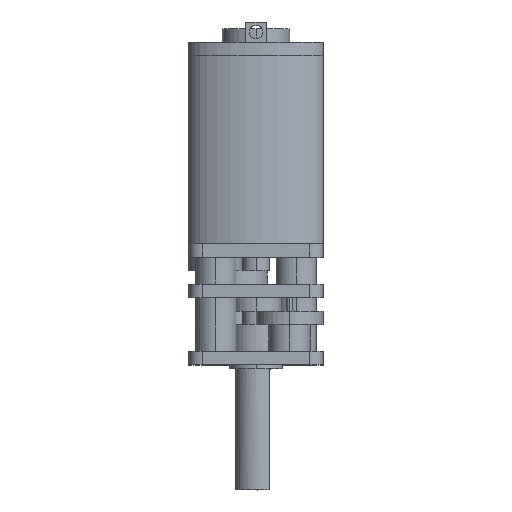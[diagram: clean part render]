
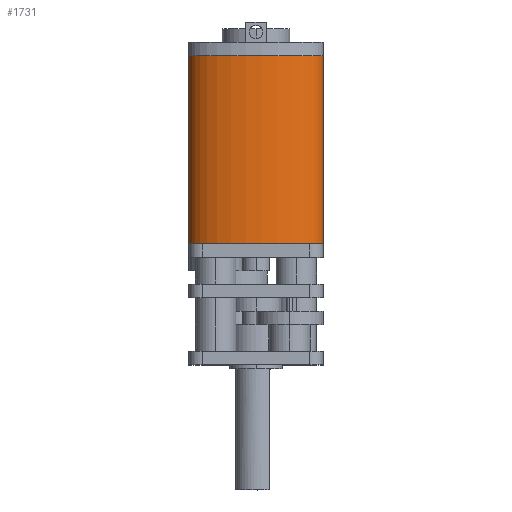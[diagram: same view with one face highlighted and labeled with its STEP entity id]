
A CAD part, top view. The second image highlights one B-rep face of the part: STEP entity #1731.
In plain terms, the highlighted free-form (B-spline) face has degree [3, 1] with [4, 2] control points.
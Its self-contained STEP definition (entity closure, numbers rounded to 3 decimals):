
#11 =( BOUNDED_SURFACE ( )  B_SPLINE_SURFACE ( 3, 1, ( 
 ( #390, #4788 ),
 ( #5086, #1599 ),
 ( #3533, #2807 ),
 ( #24, #862 ) ),
 .UNSPECIFIED., .F., .F., .F. ) 
 B_SPLINE_SURFACE_WITH_KNOTS ( ( 4, 4 ),
 ( 2, 2 ),
 ( 0., 1. ),
 ( 0., 1. ),
 .UNSPECIFIED. ) 
 GEOMETRIC_REPRESENTATION_ITEM ( )  RATIONAL_B_SPLINE_SURFACE ( (
 ( 1., 1.),
 ( 0.333, 0.333),
 ( 0.333, 0.333),
 ( 1., 1.) ) ) 
 REPRESENTATION_ITEM ( '' )  SURFACE ( )  );
#24 = CARTESIAN_POINT ( 'NONE',  ( -5., 9., 3.5 ) ) ;
#191 = ORIENTED_EDGE ( 'NONE', *, *, #4361, .T. ) ;
#323 = CARTESIAN_POINT ( 'NONE',  ( -5., 23., 3.5 ) ) ;
#390 = CARTESIAN_POINT ( 'NONE',  ( 5., 9., 3.5 ) ) ;
#629 = ORIENTED_EDGE ( 'NONE', *, *, #2189, .F. ) ;
#782 = FACE_OUTER_BOUND ( 'NONE', #3936, .T. ) ;
#803 = CARTESIAN_POINT ( 'NONE',  ( -5., 23., 8.5 ) ) ;
#862 = CARTESIAN_POINT ( 'NONE',  ( -5., 23., 3.5 ) ) ;
#1158 = EDGE_CURVE ( 'NONE', #1900, #3101, #3039, .T. ) ;
#1159 = CARTESIAN_POINT ( 'NONE',  ( 5., 9., 3.5 ) ) ;
#1198 = CARTESIAN_POINT ( 'NONE',  ( 5., 23., 3.5 ) ) ;
#1556 = VERTEX_POINT ( 'NONE', #323 ) ;
#1597 = CARTESIAN_POINT ( 'NONE',  ( -5., 9., 3.5 ) ) ;
#1599 = CARTESIAN_POINT ( 'NONE',  ( 5., 23., 8.5 ) ) ;
#1711 = ORIENTED_EDGE ( 'NONE', *, *, #3454, .T. ) ;
#1731 = ADVANCED_FACE ( 'NONE', ( #782 ), #11, .F. ) ;
#1736 = LINE ( 'NONE', #2120, #2224 ) ;
#1900 = VERTEX_POINT ( 'NONE', #4962 ) ;
#1983 = LINE ( 'NONE', #1597, #4863 ) ;
#2063 = DIRECTION ( 'NONE',  ( 0., 1., 0. ) ) ;
#2120 = CARTESIAN_POINT ( 'NONE',  ( 5., 9., 3.5 ) ) ;
#2184 =( BOUNDED_CURVE ( )  B_SPLINE_CURVE ( 3, ( #1198, #4323, #803, #3442 ),
 .UNSPECIFIED., .F., .F. ) 
 B_SPLINE_CURVE_WITH_KNOTS ( ( 4, 4 ),
 ( 0., 3.142 ),
 .UNSPECIFIED. ) 
 CURVE ( )  GEOMETRIC_REPRESENTATION_ITEM ( )  RATIONAL_B_SPLINE_CURVE ( ( 1., 0.333, 0.333, 1. ) ) 
 REPRESENTATION_ITEM ( '' )  );
#2189 = EDGE_CURVE ( 'NONE', #3101, #1556, #1983, .T. ) ;
#2224 = VECTOR ( 'NONE', #4880, 1000. ) ;
#2560 = VERTEX_POINT ( 'NONE', #2748 ) ;
#2748 = CARTESIAN_POINT ( 'NONE',  ( 5., 23., 3.5 ) ) ;
#2807 = CARTESIAN_POINT ( 'NONE',  ( -5., 23., 8.5 ) ) ;
#3039 =( BOUNDED_CURVE ( )  B_SPLINE_CURVE ( 3, ( #1159, #4233, #4999, #3518 ),
 .UNSPECIFIED., .F., .F. ) 
 B_SPLINE_CURVE_WITH_KNOTS ( ( 4, 4 ),
 ( 0., 3.142 ),
 .UNSPECIFIED. ) 
 CURVE ( )  GEOMETRIC_REPRESENTATION_ITEM ( )  RATIONAL_B_SPLINE_CURVE ( ( 1., 0.333, 0.333, 1. ) ) 
 REPRESENTATION_ITEM ( '' )  );
#3101 = VERTEX_POINT ( 'NONE', #4100 ) ;
#3442 = CARTESIAN_POINT ( 'NONE',  ( -5., 23., 3.5 ) ) ;
#3454 = EDGE_CURVE ( 'NONE', #1900, #2560, #1736, .T. ) ;
#3518 = CARTESIAN_POINT ( 'NONE',  ( -5., 9., 3.5 ) ) ;
#3533 = CARTESIAN_POINT ( 'NONE',  ( -5., 9., 8.5 ) ) ;
#3936 = EDGE_LOOP ( 'NONE', ( #191, #629, #4372, #1711 ) ) ;
#4100 = CARTESIAN_POINT ( 'NONE',  ( -5., 9., 3.5 ) ) ;
#4233 = CARTESIAN_POINT ( 'NONE',  ( 5., 9., 8.5 ) ) ;
#4323 = CARTESIAN_POINT ( 'NONE',  ( 5., 23., 8.5 ) ) ;
#4361 = EDGE_CURVE ( 'NONE', #2560, #1556, #2184, .T. ) ;
#4372 = ORIENTED_EDGE ( 'NONE', *, *, #1158, .F. ) ;
#4788 = CARTESIAN_POINT ( 'NONE',  ( 5., 23., 3.5 ) ) ;
#4863 = VECTOR ( 'NONE', #2063, 1000. ) ;
#4880 = DIRECTION ( 'NONE',  ( 0., 1., 0. ) ) ;
#4962 = CARTESIAN_POINT ( 'NONE',  ( 5., 9., 3.5 ) ) ;
#4999 = CARTESIAN_POINT ( 'NONE',  ( -5., 9., 8.5 ) ) ;
#5086 = CARTESIAN_POINT ( 'NONE',  ( 5., 9., 8.5 ) ) ;
